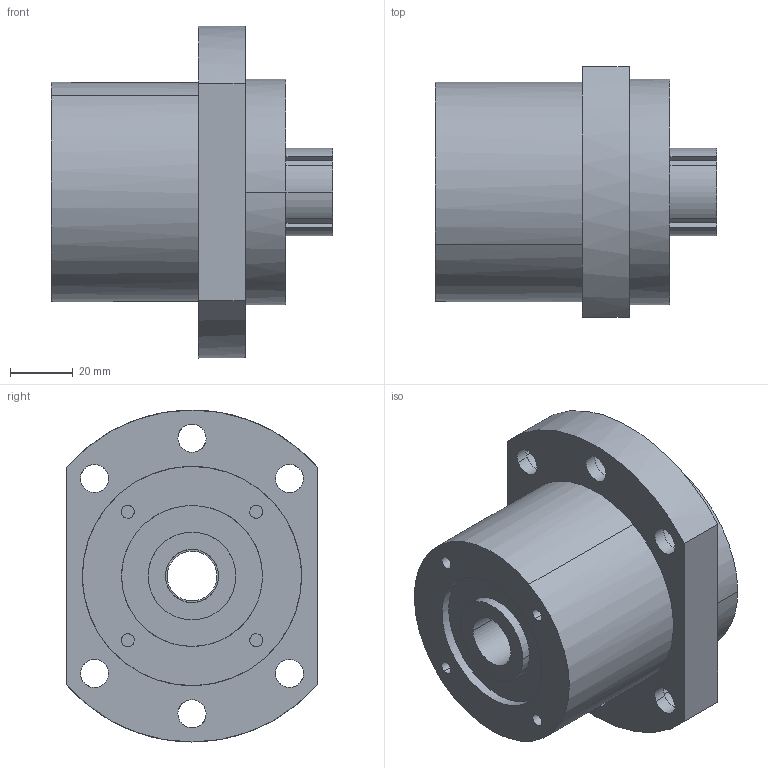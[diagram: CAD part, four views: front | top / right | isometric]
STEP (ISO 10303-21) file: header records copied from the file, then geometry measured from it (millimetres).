
FILE_DESCRIPTION(('CATIA V5 STEP Exchange'),'2;1');
FILE_NAME('D:\서포트 완성도면\WBK\WBK17DFD.stp','2014-03-26T10:24:56+00:00',('none'),('none'),'CATIA Version 5 Release 18 GA (IN-10)','CATIA V5 STEP AP203','none');
FILE_SCHEMA(('CONFIG_CONTROL_DESIGN'));
Length unit declared in the file: millimetre
Products named in the file (1): WBK17DFD
Assembly tree (4 placements, depth 2):
  WBK17DFD
    #56
    #3776  x2
    #4052
Bounding box: 90 x 80 x 106 mm (x, y, z)
Volume: 317751.9 mm3; surface area: 50879.3 mm2
Topology: 4 solids, 4 shells, 114 faces, 258 edges, 172 vertices
Faces by surface type: cylinder 72, plane 42
Entity records: 4831 total; most frequent: CARTESIAN_POINT 2503, ORIENTED_EDGE 492, DIRECTION 343, EDGE_CURVE 246, VERTEX_POINT 164, EDGE_LOOP 146, AXIS2_PLACEMENT_3D 132, VECTOR 110
